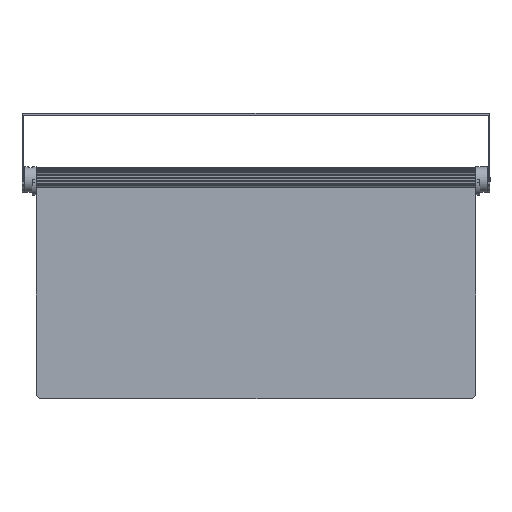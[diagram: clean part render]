
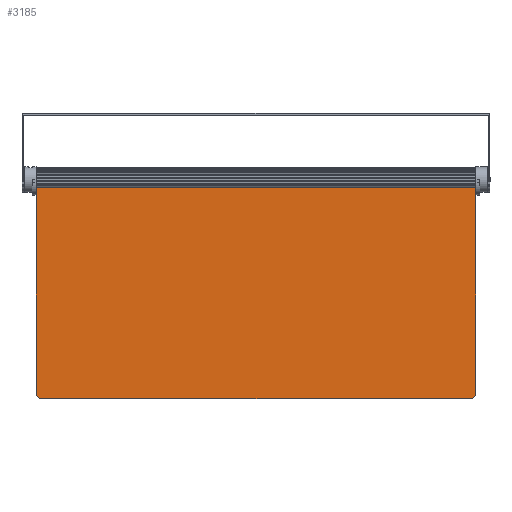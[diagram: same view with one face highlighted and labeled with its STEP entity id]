
A CAD part, top view. The second image highlights one B-rep face of the part: STEP entity #3185.
In plain terms, the highlighted planar face has unit normal (0, 0, 1).
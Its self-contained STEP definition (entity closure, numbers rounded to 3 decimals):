
#201=FACE_OUTER_BOUND('',#410,.T.);
#410=EDGE_LOOP('',(#2245,#2246,#2247,#2248,#2249,#2250,#2251,#2252,#2253,
#2254));
#857=LINE('',#5033,#1093);
#858=LINE('',#5036,#1094);
#859=LINE('',#5038,#1095);
#860=LINE('',#5040,#1096);
#861=LINE('',#5042,#1097);
#862=LINE('',#5044,#1098);
#863=LINE('',#5046,#1099);
#864=LINE('',#5048,#1100);
#865=LINE('',#5050,#1101);
#866=LINE('',#5051,#1102);
#1093=VECTOR('',#3955,10.);
#1094=VECTOR('',#3958,10.);
#1095=VECTOR('',#3959,10.);
#1096=VECTOR('',#3960,10.);
#1097=VECTOR('',#3961,10.);
#1098=VECTOR('',#3962,10.);
#1099=VECTOR('',#3963,10.);
#1100=VECTOR('',#3964,10.);
#1101=VECTOR('',#3965,10.);
#1102=VECTOR('',#3966,10.);
#1343=VERTEX_POINT('',#5029);
#1344=VERTEX_POINT('',#5031);
#1345=VERTEX_POINT('',#5035);
#1346=VERTEX_POINT('',#5037);
#1347=VERTEX_POINT('',#5039);
#1348=VERTEX_POINT('',#5041);
#1349=VERTEX_POINT('',#5043);
#1350=VERTEX_POINT('',#5045);
#1351=VERTEX_POINT('',#5047);
#1352=VERTEX_POINT('',#5049);
#1685=EDGE_CURVE('',#1343,#1344,#857,.T.);
#1686=EDGE_CURVE('',#1345,#1344,#858,.T.);
#1687=EDGE_CURVE('',#1345,#1346,#859,.T.);
#1688=EDGE_CURVE('',#1347,#1346,#860,.T.);
#1689=EDGE_CURVE('',#1347,#1348,#861,.T.);
#1690=EDGE_CURVE('',#1348,#1349,#862,.T.);
#1691=EDGE_CURVE('',#1349,#1350,#863,.T.);
#1692=EDGE_CURVE('',#1350,#1351,#864,.T.);
#1693=EDGE_CURVE('',#1351,#1352,#865,.T.);
#1694=EDGE_CURVE('',#1343,#1352,#866,.T.);
#2245=ORIENTED_EDGE('',*,*,#1686,.F.);
#2246=ORIENTED_EDGE('',*,*,#1687,.T.);
#2247=ORIENTED_EDGE('',*,*,#1688,.F.);
#2248=ORIENTED_EDGE('',*,*,#1689,.T.);
#2249=ORIENTED_EDGE('',*,*,#1690,.T.);
#2250=ORIENTED_EDGE('',*,*,#1691,.T.);
#2251=ORIENTED_EDGE('',*,*,#1692,.T.);
#2252=ORIENTED_EDGE('',*,*,#1693,.T.);
#2253=ORIENTED_EDGE('',*,*,#1694,.F.);
#2254=ORIENTED_EDGE('',*,*,#1685,.T.);
#3091=PLANE('',#3425);
#3185=ADVANCED_FACE('',(#201),#3091,.T.);
#3425=AXIS2_PLACEMENT_3D('',#5034,#3956,#3957);
#3955=DIRECTION('',(0.,1.,0.));
#3956=DIRECTION('center_axis',(0.,0.,1.));
#3957=DIRECTION('ref_axis',(1.,0.,0.));
#3958=DIRECTION('',(1.,0.,0.));
#3959=DIRECTION('',(0.,-1.,0.));
#3960=DIRECTION('',(0.,1.,0.));
#3961=DIRECTION('',(0.,-1.,0.));
#3962=DIRECTION('',(0.707,-0.707,0.));
#3963=DIRECTION('',(1.,0.,0.));
#3964=DIRECTION('',(0.707,0.707,0.));
#3965=DIRECTION('',(0.,1.,0.));
#3966=DIRECTION('',(0.,-1.,0.));
#5029=CARTESIAN_POINT('',(417.765,227.759,10.));
#5031=CARTESIAN_POINT('',(417.765,229.579,10.));
#5033=CARTESIAN_POINT('',(417.765,68.68,10.));
#5034=CARTESIAN_POINT('Origin',(247.765,151.065,10.));
#5035=CARTESIAN_POINT('',(77.765,229.579,10.));
#5036=CARTESIAN_POINT('',(249.265,229.579,10.));
#5037=CARTESIAN_POINT('',(77.765,227.759,10.));
#5038=CARTESIAN_POINT('',(77.765,236.065,10.));
#5039=CARTESIAN_POINT('',(77.765,224.789,10.));
#5040=CARTESIAN_POINT('',(77.765,192.759,10.));
#5041=CARTESIAN_POINT('',(77.765,68.68,10.));
#5042=CARTESIAN_POINT('',(77.765,236.065,10.));
#5043=CARTESIAN_POINT('',(80.38,66.065,10.));
#5044=CARTESIAN_POINT('',(77.765,68.68,10.));
#5045=CARTESIAN_POINT('',(415.15,66.065,10.));
#5046=CARTESIAN_POINT('',(80.38,66.065,10.));
#5047=CARTESIAN_POINT('',(417.765,68.68,10.));
#5048=CARTESIAN_POINT('',(415.15,66.065,10.));
#5049=CARTESIAN_POINT('',(417.765,224.789,10.));
#5050=CARTESIAN_POINT('',(417.765,68.68,10.));
#5051=CARTESIAN_POINT('',(417.765,192.759,10.));
